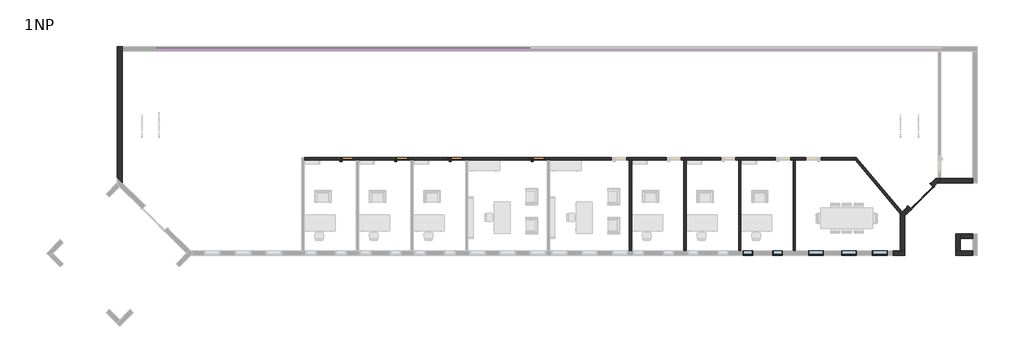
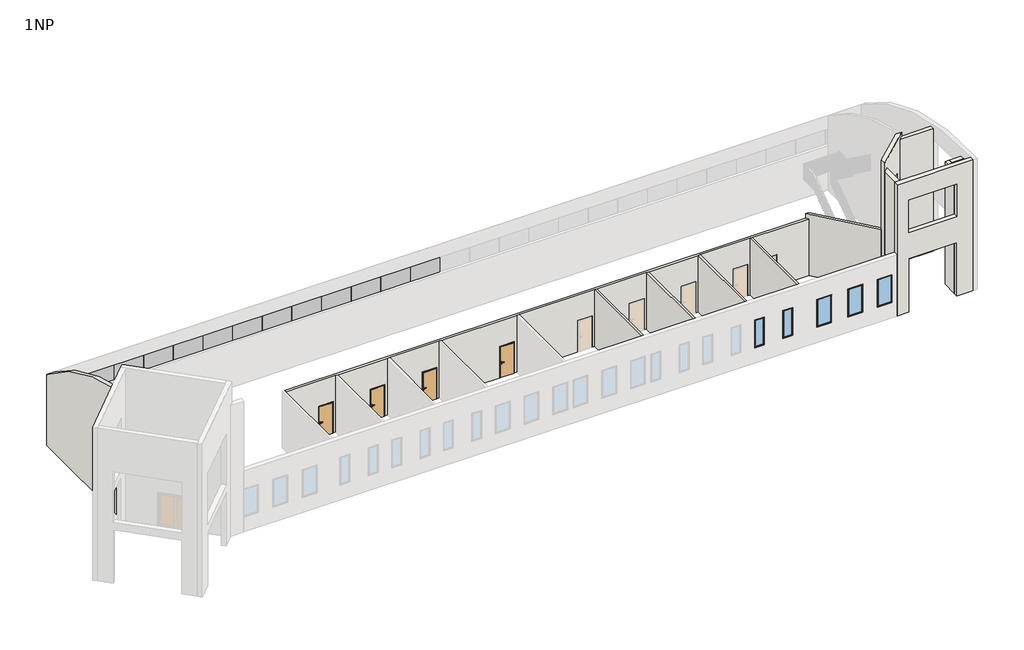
# One storey, part 2 of 3: 13 walls, 12 plates, 5 doors, 5 windows.
"""IFC4 building model written with IfcOpenShell, lengths in millimetres."""

from ifc_helpers import new_model, si_unit, frame, origin, origin_with_axes, place, context, project, spatial, polyline, circle_curve, ellipse_curve, outline, extrude, faceted_brep, transform, mapped, element, save
from ifc_brep_helpers import plane_surface, cylinder_surface, advanced_brep
from components import door_1800_x_1970mm_3c2632e2, door_900_x_2000_c64c60ef, system_panel_glazed_e7f7cd54, window_0610_x_1830mm_aeee110f, window_0915_x_1830mm_7ee91fd3

model = new_model("IFC4")

# Units and contexts
model_context = context("Model", 3, world=origin())
ifc_project = project(units=[si_unit("LENGTHUNIT", "METRE", prefix="MILLI")], contexts=[model_context])

# Site, building, storey
site = spatial("IfcSite", under=ifc_project)
building = spatial("IfcBuilding", under=site)
storey = spatial("IfcBuildingStorey", under=building, Name="1NP", Elevation=0.0)

# Doors
placement = place(None, origin())
door_1800_x_1970mm_shape = door_1800_x_1970mm_3c2632e2(model_context)
element("IfcDoor", 1, ObjectType="Dvoukridle prosklene : 1800 x 1970mm", at=placement, inside=storey, context=model_context, shape_type="MappedRepresentation", body=[
    mapped(door_1800_x_1970mm_shape, transform((35397.5898577, -1433.3591998, 0.0), x_axis=(0.7071067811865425, 0.7071067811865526, 0.0), y_axis=(-0.7071067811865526, 0.7071067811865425, 0.0), z_axis=(0.0, 0.0, 1.0))),
])
door_900_x_2000_shape = door_900_x_2000_c64c60ef(model_context)
element("IfcDoor", 2, ObjectType="Jednokridle oboustrana zaruben : 900 x 2000", at=placement, inside=storey, context=model_context, shape_type="MappedRepresentation", body=[
    mapped(door_900_x_2000_shape, transform((1699.9255273, 791.5551306, 0.0), x_axis=(-1.0, 0.0, 0.0), y_axis=(0.0, -1.0, 0.0), z_axis=(0.0, 0.0, 1.0))),
])
element("IfcDoor", 3, ObjectType="Jednokridle oboustrana zaruben : 900 x 2000", at=placement, inside=storey, context=model_context, shape_type="MappedRepresentation", body=[
    mapped(door_900_x_2000_shape, transform((4899.9255273, 791.5551306, 0.0), x_axis=(-1.0, 0.0, 0.0), y_axis=(0.0, -1.0, 0.0), z_axis=(0.0, 0.0, 1.0))),
])
element("IfcDoor", 4, ObjectType="Jednokridle oboustrana zaruben : 900 x 2000", at=placement, inside=storey, context=model_context, shape_type="MappedRepresentation", body=[
    mapped(door_900_x_2000_shape, transform((8099.9255273, 791.5551306, 0.0), x_axis=(-1.0, 0.0, 0.0), y_axis=(0.0, -1.0, 0.0), z_axis=(0.0, 0.0, 1.0))),
])
element("IfcDoor", 5, ObjectType="Jednokridle oboustrana zaruben : 900 x 2000", at=placement, inside=storey, context=model_context, shape_type="MappedRepresentation", body=[
    mapped(door_900_x_2000_shape, transform((12899.9255273, 791.5551306, 0.0), x_axis=(-1.0, 0.0, 0.0), y_axis=(0.0, -1.0, 0.0), z_axis=(0.0, 0.0, 1.0))),
])

# Plates
system_panel_glazed_shape = system_panel_glazed_e7f7cd54(model_context)
element("IfcPlate", 6, ObjectType="System Panel : Glazed", at=placement, inside=storey, context=model_context, shape_type="MappedRepresentation", body=[
    mapped(system_panel_glazed_shape, transform((-8495.8244727, 7241.5551306, 2916.2475184), x_axis=(1.0, 0.0, 0.0), y_axis=(0.0, 1.0, 0.0), z_axis=(0.0, 0.0, 1.0))),
])
element("IfcPlate", 7, ObjectType="System Panel : Glazed", at=placement, inside=storey, context=model_context, shape_type="MappedRepresentation", body=[
    mapped(system_panel_glazed_shape, transform((-6665.8244727, 7241.5551306, 2916.2475184), x_axis=(1.0, 0.0, 0.0), y_axis=(0.0, 1.0, 0.0), z_axis=(0.0, 0.0, 1.0))),
])
element("IfcPlate", 8, ObjectType="System Panel : Glazed", at=placement, inside=storey, context=model_context, shape_type="MappedRepresentation", body=[
    mapped(system_panel_glazed_shape, transform((-4835.8244727, 7241.5551306, 2916.2475184), x_axis=(1.0, 0.0, 0.0), y_axis=(0.0, 1.0, 0.0), z_axis=(0.0, 0.0, 1.0))),
])
element("IfcPlate", 9, ObjectType="System Panel : Glazed", at=placement, inside=storey, context=model_context, shape_type="MappedRepresentation", body=[
    mapped(system_panel_glazed_shape, transform((-3005.8244727, 7241.5551306, 2916.2475184), x_axis=(1.0, 0.0, 0.0), y_axis=(0.0, 1.0, 0.0), z_axis=(0.0, 0.0, 1.0))),
])
element("IfcPlate", 10, ObjectType="System Panel : Glazed", at=placement, inside=storey, context=model_context, shape_type="MappedRepresentation", body=[
    mapped(system_panel_glazed_shape, transform((-1175.8244727, 7241.5551306, 2916.2475184), x_axis=(1.0, 0.0, 0.0), y_axis=(0.0, 1.0, 0.0), z_axis=(0.0, 0.0, 1.0))),
])
element("IfcPlate", 11, ObjectType="System Panel : Glazed", at=placement, inside=storey, context=model_context, shape_type="MappedRepresentation", body=[
    mapped(system_panel_glazed_shape, transform((654.1755273, 7241.5551306, 2916.2475184), x_axis=(1.0, 0.0, 0.0), y_axis=(0.0, 1.0, 0.0), z_axis=(0.0, 0.0, 1.0))),
])
element("IfcPlate", 12, ObjectType="System Panel : Glazed", at=placement, inside=storey, context=model_context, shape_type="MappedRepresentation", body=[
    mapped(system_panel_glazed_shape, transform((2484.1755273, 7241.5551306, 2916.2475184), x_axis=(1.0, 0.0, 0.0), y_axis=(0.0, 1.0, 0.0), z_axis=(0.0, 0.0, 1.0))),
])
element("IfcPlate", 13, ObjectType="System Panel : Glazed", at=placement, inside=storey, context=model_context, shape_type="MappedRepresentation", body=[
    mapped(system_panel_glazed_shape, transform((4314.1755273, 7241.5551306, 2916.2475184), x_axis=(1.0, 0.0, 0.0), y_axis=(0.0, 1.0, 0.0), z_axis=(0.0, 0.0, 1.0))),
])
element("IfcPlate", 14, ObjectType="System Panel : Glazed", at=placement, inside=storey, context=model_context, shape_type="MappedRepresentation", body=[
    mapped(system_panel_glazed_shape, transform((6144.1755273, 7241.5551306, 2916.2475184), x_axis=(1.0, 0.0, 0.0), y_axis=(0.0, 1.0, 0.0), z_axis=(0.0, 0.0, 1.0))),
])
element("IfcPlate", 15, ObjectType="System Panel : Glazed", at=placement, inside=storey, context=model_context, shape_type="MappedRepresentation", body=[
    mapped(system_panel_glazed_shape, transform((7974.1755273, 7241.5551306, 2916.2475184), x_axis=(1.0, 0.0, 0.0), y_axis=(0.0, 1.0, 0.0), z_axis=(0.0, 0.0, 1.0))),
])
element("IfcPlate", 16, ObjectType="System Panel : Glazed", at=placement, inside=storey, context=model_context, shape_type="MappedRepresentation", body=[
    mapped(system_panel_glazed_shape, transform((9804.1755273, 7241.5551306, 2916.2475184), x_axis=(1.0, 0.0, 0.0), y_axis=(0.0, 1.0, 0.0), z_axis=(0.0, 0.0, 1.0))),
])
element("IfcPlate", 17, ObjectType="System Panel : Glazed", at=placement, inside=storey, context=model_context, shape_type="MappedRepresentation", body=[
    mapped(system_panel_glazed_shape, transform((11634.1755273, 7241.5551306, 2916.2475184), x_axis=(1.0, 0.0, 0.0), y_axis=(0.0, 1.0, 0.0), z_axis=(0.0, 0.0, 1.0))),
])

# Walls
element("IfcWall", 18, ObjectType="Exterior - EIFS on Mtl. Stud", at=placement, inside=storey, context=model_context, shape_type="AdvancedBrep", body=[
    advanced_brep(
    [(38455.6755273, -4624.9448694, 0.0), (37722.6755273, -4624.9448694, 0.0), (37455.6755273, -4624.9448694, 0.0), (37455.6755273, -4624.9448694, 3500.0), (34472.6755273, -4624.9448694, 3500.0), (34472.6755273, -4624.9448694, 0.0), (34205.6755273, -4624.9448694, 0.0), (33755.6755273, -4624.9448694, 0.0), (33755.6755273, -4624.9448694, 4000.0), (33755.6755273, -4624.9448694, 8556.4380679), (38455.6755273, -4624.9448694, 8556.4380679), (37455.6755273, -4624.9448694, 7300.0), (34472.6755273, -4624.9448694, 7300.0), (34472.6755273, -4624.9448694, 5200.0), (37455.6755273, -4624.9448694, 5200.0), (38455.6755273, -4891.9448694, 0.0), (38455.6755273, -4891.9448694, 8541.7849302), (33755.6755273, -4891.9448694, 8541.7849302), (33755.6755273, -4891.9448694, 4000.0), (33755.6755273, -4891.9448694, 0.0), (34472.6755273, -4891.9448694, 0.0), (34472.6755273, -4891.9448694, 3500.0), (37455.6755273, -4891.9448694, 3500.0), (37455.6755273, -4891.9448694, 0.0), (37455.6755273, -4891.9448694, 7300.0), (37455.6755273, -4891.9448694, 5200.0), (34472.6755273, -4891.9448694, 5200.0), (34472.6755273, -4891.9448694, 7300.0)],
    [
        (0, 1),
        (1, 2),
        (2, 3),
        (3, 4),
        (4, 5),
        (5, 6),
        (6, 7),
        (7, 8),
        (8, 9),
        (9, 10),
        (10, 0),
        (11, 12),
        (12, 13),
        (13, 14),
        (14, 11),
        (15, 16),
        (16, 17),
        (17, 18),
        (18, 19),
        (19, 20),
        (20, 21),
        (21, 22),
        (22, 23),
        (23, 15),
        (24, 25),
        (25, 26),
        (26, 27),
        (27, 24),
        (0, 15),
        (23, 2),
        (3, 22),
        (21, 4),
        (20, 5),
        (19, 7),
        (17, 9, circle_curve(frame((33755.6755273, -3782.5530793, -9232.9575956), z_axis=(-1.0, 0.0, 0.0), x_axis=(0.0, -1.0, 0.0)), 17809.3296337)),
        (11, 24),
        (27, 12),
        (13, 26),
        (25, 14),
        (10, 16, circle_curve(frame((38455.6755273, -3782.5530793, -9232.9575956), z_axis=(1.0, 0.0, 0.0), x_axis=(0.0, -1.0, 0.0)), 17809.3296337)),
    ],
    [
        plane_surface(frame((12455.6755273, -4624.9448694, 0.0), z_axis=(0.0, 1.0, 0.0), x_axis=(-1.0, 0.0, 0.0))),
        plane_surface(frame((12455.6755273, -4891.9448694, 0.0), z_axis=(0.0, -1.0, 0.0), x_axis=(1.0, 0.0, 0.0))),
        plane_surface(frame((38589.1755273, -4624.9448694, 0.0), z_axis=(0.0, 0.0, -1.0), x_axis=(0.0, -1.0, 0.0))),
        plane_surface(frame((37589.1755273, -4624.9448694, 3500.0), z_axis=(0.0, 0.0, -1.0), x_axis=(0.0, -1.0, 0.0))),
        plane_surface(frame((34472.6755273, -4624.9448694, 3500.0), z_axis=(1.0, 0.0, 0.0), x_axis=(0.0, -1.0, 0.0))),
        plane_surface(frame((34472.6755273, -4624.9448694, 0.0), z_axis=(0.0, 0.0, -1.0), x_axis=(0.0, -1.0, 0.0))),
        plane_surface(frame((33755.6755273, -4624.9448694, 0.0), z_axis=(-1.0, 0.0, 0.0), x_axis=(0.0, -1.0, 0.0))),
        plane_surface(frame((37589.1755273, -4624.9448694, 7300.0), z_axis=(0.0, 0.0, -1.0), x_axis=(0.0, -1.0, 0.0))),
        plane_surface(frame((34339.1755273, -4624.9448694, 5200.0), z_axis=(0.0, 0.0, 1.0), x_axis=(0.0, -1.0, 0.0))),
        plane_surface(frame((38455.6755273, 5741.5551306, 0.0), z_axis=(1.0, 0.0, 0.0), x_axis=(0.0, -1.0, 0.0))),
        plane_surface(frame((34472.6755273, -4758.4448694, 0.0), z_axis=(1.0, 0.0, 0.0), x_axis=(0.0, 1.0, 0.0))),
        plane_surface(frame((37455.6755273, -4758.4448694, 0.0), z_axis=(-1.0, 0.0, 0.0), x_axis=(0.0, -1.0, 0.0))),
        cylinder_surface(frame((39922.6755273, -3782.5530793, -9232.9575956), z_axis=(1.0, 0.0, 0.0), x_axis=(0.0, -1.0, 0.0)), 17809.3296337),
    ],
    [
        (0, [[1, 2, 3, 4, 5, 6, 7, 8, 9, 10, 11], [12, 13, 14, 15]]),
        (1, [[16, 17, 18, 19, 20, 21, 22, 23, 24], [25, 26, 27, 28]]),
        (2, [[-2, -1, 29, -24, 30]]),
        (3, [[-4, 31, -22, 32]]),
        (4, [[-5, -32, -21, 33]]),
        (5, [[-7, -6, -33, -20, 34]]),
        (6, [[-9, -8, -34, -19, -18, 35]]),
        (7, [[-12, 36, -28, 37]]),
        (8, [[-14, 38, -26, 39]]),
        (9, [[-11, 40, -16, -29]]),
        (10, [[-13, -37, -27, -38]]),
        (11, [[-3, -30, -23, -31]]),
        (11, [[-15, -39, -25, -36]]),
        (12, [[-10, -35, -17, -40]]),
    ],
),
])
element("IfcWall", 19, ObjectType="Exterior - EIFS on Mtl. Stud", at=placement, inside=storey, context=model_context, shape_type="AdvancedBrep", body=[
    advanced_brep(
    [(-11410.8244727, -601.928028, 0.0), (-11410.8244727, 7108.0551306, 0.0), (-11410.8244727, 7375.0551306, 0.0), (-11410.8244727, 7375.0551306, 4647.9646014), (-11410.8244727, 7108.0445023, 4858.4264309), (-11410.8244727, -601.928028, 8290.0514578), (-11677.8244727, -334.928028, 0.0), (-11677.8244727, -334.928028, 8239.4808006), (-11677.8244727, 7375.0551306, 4647.9646014), (-11677.8244727, 7375.0551306, 0.0)],
    [
        (0, 1),
        (1, 2),
        (2, 3),
        (3, 4, circle_curve(frame((-11410.8244727, -3782.5530793, -9232.9575956), z_axis=(1.0, 0.0, 0.0), x_axis=(0.0, -1.0, 0.0)), 17809.3296337)),
        (4, 5, circle_curve(frame((-11410.8244727, -3782.5530793, -9232.9575956), z_axis=(1.0, 0.0, 0.0), x_axis=(0.0, -1.0, 0.0)), 17809.3295625)),
        (5, 0),
        (6, 7),
        (7, 8, circle_curve(frame((-11677.8244727, -3782.5530793, -9232.9575956), z_axis=(-1.0, 0.0, 0.0), x_axis=(0.0, -1.0, 0.0)), 17809.3296337)),
        (8, 9),
        (9, 6),
        (0, 6),
        (9, 2),
        (8, 3),
        (5, 7, ellipse_curve(frame((-8230.1994214, -3782.5530793, -9232.9575956), z_axis=(-0.7071067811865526, -0.7071067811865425, 0.0), x_axis=(0.7071067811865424, -0.7071067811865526, 0.0)), 25186.1955048, 17809.3296337)),
    ],
    [
        plane_surface(frame((-11410.8244727, -6258.4448694, 0.0), z_axis=(1.0, 0.0, 0.0), x_axis=(0.0, 1.0, 0.0))),
        plane_surface(frame((-11677.8244727, -6258.4448694, 0.0), z_axis=(-1.0, 0.0, 0.0), x_axis=(0.0, -1.0, 0.0))),
        plane_surface(frame((-11410.8244727, -657.2255385, 0.0), z_axis=(0.0, 0.0, -1.0), x_axis=(-1.0, 0.0, 0.0))),
        plane_surface(frame((-5544.3244727, 7375.0551306, 0.0), z_axis=(0.0, 1.0, 0.0), x_axis=(-1.0, 0.0, 0.0))),
        plane_surface(frame((-12510.5858892, 497.8333885, 0.0), z_axis=(-0.7071067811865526, -0.7071067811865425, 0.0), x_axis=(-0.7071067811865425, 0.7071067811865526, 0.0))),
        cylinder_surface(frame((39922.6755273, -3782.5530793, -9232.9575956), z_axis=(1.0, 0.0, 0.0), x_axis=(0.0, -1.0, 0.0)), 17809.3296337),
    ],
    [
        (0, [[1, 2, 3, 4, 5, 6]]),
        (1, [[7, 8, 9, 10]]),
        (2, [[-2, -1, 11, -10, 12]]),
        (3, [[-3, -12, -9, 13]]),
        (4, [[-6, 14, -7, -11]]),
        (5, [[-5, -4, -13, -8, -14]]),
    ],
),
])
element("IfcWall", 20, ObjectType="Exterior - EIFS on Mtl. Stud", at=placement, inside=storey, context=model_context, shape_type="Brep", body=[
    faceted_brep([(37722.6755273, -4624.9448694, 8000.0), (37722.6755273, -4624.9448694, 0.0), (37722.6755273, -3891.9448694, 0.0), (37722.6755273, -3624.9448694, 0.0), (37722.6755273, -3624.9448694, 8000.0), (37722.6755273, -3891.9448694, 8000.0), (37455.6755273, -4624.9448694, 0.0), (37455.6755273, -4624.9448694, 3500.0), (37455.6755273, -4624.9448694, 5200.0), (37455.6755273, -4624.9448694, 7300.0), (37455.6755273, -4624.9448694, 8000.0), (37455.6755273, -3624.9448694, 8000.0), (37455.6755273, -3624.9448694, 0.0)], [[[0, 1, 2, 3, 4, 5]], [[6, 7, 8, 9, 10, 11, 12]], [[3, 2, 1, 6, 12]], [[0, 5, 4, 11, 10]], [[4, 3, 12, 11]], [[0, 10, 9, 8, 7, 6, 1]]]),
])
element("IfcWall", 21, ObjectType="Exterior - EIFS on Mtl. Stud", at=placement, inside=storey, context=model_context, shape_type="Brep", body=[
    faceted_brep([(37722.6755273, -3891.9448694, 0.0), (38455.6755273, -3891.9448694, 0.0), (38455.6755273, -3891.9448694, 8000.0), (37722.6755273, -3891.9448694, 8000.0), (37722.6755273, -3624.9448694, 0.0), (37722.6755273, -3624.9448694, 8000.0), (38455.6755273, -3624.9448694, 8000.0), (38455.6755273, -3624.9448694, 7300.0), (38455.6755273, -3624.9448694, 5200.0), (38455.6755273, -3624.9448694, 3500.0), (38455.6755273, -3624.9448694, 0.0)], [[[0, 1, 2, 3]], [[4, 5, 6, 7, 8, 9, 10]], [[1, 0, 4, 10]], [[3, 2, 6, 5]], [[0, 3, 5, 4]], [[1, 10, 9, 8, 7, 6, 2]]]),
])
element("IfcWall", 22, ObjectType="Exterior - EIFS on Mtl. Stud", at=placement, inside=storey, context=model_context, shape_type="AdvancedBrep", body=[
    advanced_brep(
    [(36270.5742736, -374.9448694, 0.0), (35951.8776052, -693.6415378, 0.0), (35951.8776052, -693.6415378, 2134.0), (34657.8721956, -1987.6469473, 2134.0), (34657.8721956, -1987.6469473, 0.0), (34302.1897841, -2343.3293589, 0.0), (34205.6755273, -2439.8436157, 0.0), (34205.6755273, -2439.8436157, 4000.0), (34205.6755273, -2439.8436157, 8525.6840557), (36270.5742736, -374.9448694, 8247.3292525), (35823.8290879, -821.6900551, 4000.0), (35823.8290879, -821.6900551, 6134.0), (34529.8236783, -2115.6954646, 6134.0), (34529.8236783, -2115.6954646, 4000.0), (36140.6751158, -882.4390484, 2134.0), (36140.6751158, -882.4390484, 0.0), (36381.1692947, -641.9448694, 0.0), (36648.1692947, -374.9448694, 0.0), (36648.1692947, -374.9448694, 8000.0), (36648.1692947, -374.9448694, 8247.3292525), (34205.6755273, -2817.4386368, 8550.2023068), (34205.6755273, -2817.4386368, 8000.0), (34205.6755273, -2817.4386368, 0.0), (34472.6755273, -2550.4386368, 0.0), (34846.6697062, -2176.4444579, 0.0), (34846.6697062, -2176.4444579, 2134.0), (36012.6265985, -1010.4875656, 4000.0), (34718.6211889, -2304.4929752, 4000.0), (34718.6211889, -2304.4929752, 6134.0), (36012.6265985, -1010.4875656, 6134.0), (36419.9255273, -374.9448694, 0.0), (36558.4255273, -374.9448694, 0.0), (34205.6755273, -2443.7758967, 0.0), (36419.9255273, -374.9448694, 8247.3292525), (36558.4255273, -374.9448694, 8247.3292525)],
    [
        (0, 1),
        (1, 2),
        (2, 3),
        (3, 4),
        (4, 5),
        (5, 6),
        (6, 7),
        (7, 8),
        (8, 9, ellipse_curve(frame((32862.9660637, -3782.5530793, -9232.9575956), z_axis=(-0.7071067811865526, 0.7071067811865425, 0.0), x_axis=(0.7071067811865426, 0.7071067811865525, 0.0)), 25186.1955048, 17809.3296337)),
        (9, 0),
        (10, 11),
        (11, 12),
        (12, 13),
        (13, 10),
        (14, 15),
        (15, 16),
        (16, 17),
        (17, 18),
        (18, 19),
        (19, 20, ellipse_curve(frame((33240.5610849, -3782.5530793, -9232.9575956), z_axis=(0.7071067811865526, -0.7071067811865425, 0.0), x_axis=(0.7071067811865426, 0.7071067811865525, 0.0)), 25186.1955048, 17809.3296337)),
        (20, 21),
        (21, 22),
        (22, 23),
        (23, 24),
        (24, 25),
        (25, 14),
        (26, 27),
        (27, 28),
        (28, 29),
        (29, 26),
        (15, 1),
        (0, 30),
        (30, 31),
        (31, 17),
        (22, 32),
        (32, 6),
        (4, 24),
        (9, 33),
        (33, 34),
        (34, 19),
        (20, 8, circle_curve(frame((34205.6755273, -3782.5530793, -9232.9575956), z_axis=(-1.0, 0.0, 0.0), x_axis=(0.0, -1.0, 0.0)), 17809.3296337)),
        (14, 2),
        (25, 3),
        (26, 10),
        (13, 27),
        (12, 28),
        (11, 29),
    ],
    [
        plane_surface(frame((38416.1447376, 1770.6255947, 0.0), z_axis=(-0.7071067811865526, 0.7071067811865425, 0.0), x_axis=(-0.7071067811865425, -0.7071067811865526, 0.0))),
        plane_surface(frame((38604.9422482, 1581.8280841, 0.0), z_axis=(0.7071067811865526, -0.7071067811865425, 0.0), x_axis=(0.7071067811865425, 0.7071067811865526, 0.0))),
        plane_surface(frame((36231.4730288, -414.0461141, 0.0), z_axis=(0.0, 0.0, -1.0), x_axis=(0.7071067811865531, -0.707106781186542, 0.0))),
        plane_surface(frame((38455.6755273, -374.9448694, 0.0), z_axis=(0.0, 1.0, 0.0), x_axis=(-1.0, 0.0, 0.0))),
        plane_surface(frame((34205.6755273, -4758.4448694, 0.0), z_axis=(-1.0, 0.0, 0.0), x_axis=(0.0, -1.0, 0.0))),
        cylinder_surface(frame((39922.6755273, -3782.5530793, -9232.9575956), z_axis=(1.0, 0.0, 0.0), x_axis=(0.0, -1.0, 0.0)), 17809.3296337),
        plane_surface(frame((35951.8776052, -693.6415378, 0.0), z_axis=(-0.7071067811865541, -0.7071067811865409, 0.0), x_axis=(0.7071067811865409, -0.7071067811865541, 0.0))),
        plane_surface(frame((35951.8776052, -693.6415378, 2134.0), z_axis=(0.0, 0.0, -1.0), x_axis=(0.7071067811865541, -0.7071067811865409, 0.0))),
        plane_surface(frame((34657.8721956, -1987.6469473, 2134.0), z_axis=(0.707106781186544, 0.7071067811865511, 0.0), x_axis=(0.7071067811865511, -0.707106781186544, 0.0))),
        plane_surface(frame((36012.6265985, -1010.4875656, 4000.0), z_axis=(0.0, 0.0, 1.0), x_axis=(-0.7071067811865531, 0.707106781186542, 0.0))),
        plane_surface(frame((34718.6211889, -2304.4929752, 4000.0), z_axis=(0.707106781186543, 0.7071067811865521, 0.0), x_axis=(-0.7071067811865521, 0.707106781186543, 0.0))),
        plane_surface(frame((34718.6211889, -2304.4929752, 6134.0), z_axis=(0.0, 0.0, -1.0000000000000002), x_axis=(-0.707106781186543, 0.7071067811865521, 0.0))),
        plane_surface(frame((36012.6265985, -1010.4875656, 6134.0), z_axis=(-0.707106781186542, -0.7071067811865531, 0.0), x_axis=(-0.7071067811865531, 0.707106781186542, 0.0))),
    ],
    [
        (0, [[1, 2, 3, 4, 5, 6, 7, 8, 9, 10], [11, 12, 13, 14]]),
        (1, [[15, 16, 17, 18, 19, 20, 21, 22, 23, 24, 25, 26], [27, 28, 29, 30]]),
        (2, [[-17, -16, 31, -1, 32, 33, 34]]),
        (2, [[-24, -23, 35, 36, -6, -5, 37]]),
        (3, [[-10, 38, 39, 40, -19, -18, -34, -33, -32]]),
        (4, [[-36, -35, -22, -21, 41, -8, -7]]),
        (5, [[-9, -41, -20, -40, -39, -38]]),
        (6, [[-2, -31, -15, 42]]),
        (7, [[-3, -42, -26, 43]]),
        (8, [[-4, -43, -25, -37]]),
        (9, [[-27, 44, -14, 45]]),
        (10, [[-28, -45, -13, 46]]),
        (11, [[-29, -46, -12, 47]]),
        (12, [[-30, -47, -11, -44]]),
    ],
),
])
element("IfcWall", 23, ObjectType="Exterior - EIFS on Mtl. Stud", at=placement, inside=storey, context=model_context, shape_type="Brep", body=[
    faceted_brep([(38455.6755273, -374.9448694, 8000.0), (38455.6755273, -374.9448694, 0.0), (36648.1692947, -374.9448694, 0.0), (36648.1692947, -374.9448694, 8000.0), (38455.6755273, -641.9448694, 0.0), (38455.6755273, -641.9448694, 3500.0), (38455.6755273, -641.9448694, 5200.0), (38455.6755273, -641.9448694, 7300.0), (38455.6755273, -641.9448694, 8000.0), (36381.1692947, -641.9448694, 8000.0), (36381.1692947, -641.9448694, 0.0)], [[[0, 1, 2, 3]], [[4, 5, 6, 7, 8, 9, 10]], [[2, 1, 4, 10]], [[0, 3, 9, 8]], [[3, 2, 10, 9]], [[0, 8, 7, 6, 5, 4, 1]]]),
])
element("IfcWall", 24, ObjectType="Exterior - EIFS on Mtl. Stud", at=placement, inside=storey, context=model_context, shape_type="Brep", body=[
    faceted_brep([(34472.6755273, -4624.9448694, 8000.0), (34472.6755273, -4624.9448694, 7300.0), (34472.6755273, -4624.9448694, 5200.0), (34472.6755273, -4624.9448694, 3500.0), (34472.6755273, -4624.9448694, 0.0), (34472.6755273, -2550.4386368, 0.0), (34472.6755273, -2550.4386368, 8000.0), (34205.6755273, -4624.9448694, 0.0), (34205.6755273, -4624.9448694, 8000.0), (34205.6755273, -2817.4386368, 8000.0), (34205.6755273, -2817.4386368, 0.0)], [[[0, 1, 2, 3, 4, 5, 6]], [[7, 8, 9, 10]], [[5, 4, 7, 10]], [[0, 6, 9, 8]], [[5, 10, 9, 6]], [[0, 8, 7, 4, 3, 2, 1]]]),
])
element("IfcWall", 25, ObjectType="Interior - 138mm Partition (1-hr)", at=placement, inside=storey, context=model_context, shape_type="SweptSolid", body=[
    extrude(outline(polyline([(28058.4255273, 722.3051306), (28058.4255273, -4624.9448694), (27919.9255273, -4624.9448694), (27919.9255273, 722.3051306), (28058.4255273, 722.3051306)])), origin_with_axes(), (0.0, 0.0, 1.0), 3700.0),
])
element("IfcWall", 26, ObjectType="Interior - 138mm Partition (1-hr)", at=placement, inside=storey, context=model_context, shape_type="Brep", body=[
    faceted_brep([(34302.1897841, -2343.3293589, 0.0), (31613.6017157, 860.8051306, 0.0), (31613.6017157, 860.8051306, 4000.0), (34302.1897841, -2343.3293589, 4000.0), (34205.6755273, -2443.7758967, 0.0), (34205.6755273, -2443.7758967, 4000.0), (31432.8028061, 860.8051306, 4000.0), (31432.8028061, 860.8051306, 3700.0), (31432.8028061, 860.8051306, 0.0), (31549.018105, 722.3051306, 0.0), (34205.6755273, -2439.8436157, 0.0), (34205.6755273, -2439.8436157, 4000.0)], [[[0, 1, 2, 3]], [[4, 5, 6, 7, 8, 9]], [[1, 0, 10, 4, 9, 8]], [[3, 2, 6, 5, 11]], [[2, 1, 8, 7, 6]], [[0, 3, 11, 10]], [[11, 5, 4, 10]]]),
])
element("IfcWall", 27, ObjectType="Interior - 138mm Partition (1-hr)", at=placement, inside=storey, context=model_context, shape_type="Brep", body=[
    faceted_brep([(17269.9255273, 860.8051306, 2050.0), (17269.9255273, 860.8051306, 0.0), (13369.9255273, 860.8051306, 0.0), (13369.9255273, 860.8051306, 2050.0), (12469.9255273, 860.8051306, 2050.0), (12469.9255273, 860.8051306, 0.0), (8569.9255273, 860.8051306, 0.0), (8569.9255273, 860.8051306, 2050.0), (7669.9255273, 860.8051306, 2050.0), (7669.9255273, 860.8051306, 0.0), (5369.9255273, 860.8051306, 0.0), (5369.9255273, 860.8051306, 2050.0), (4469.9255273, 860.8051306, 2050.0), (4469.9255273, 860.8051306, 0.0), (2169.9255273, 860.8051306, 0.0), (2169.9255273, 860.8051306, 2050.0), (1269.9255273, 860.8051306, 2050.0), (1269.9255273, 860.8051306, 0.0), (-741.5744727, 860.8051306, 0.0), (-741.5744727, 860.8051306, 3700.0), (31432.8028061, 860.8051306, 3700.0), (31432.8028061, 860.8051306, 0.0), (29565.9255273, 860.8051306, 0.0), (29565.9255273, 860.8051306, 2050.0), (28665.9255273, 860.8051306, 2050.0), (28665.9255273, 860.8051306, 0.0), (27769.9255273, 860.8051306, 0.0), (27769.9255273, 860.8051306, 2050.0), (26869.9255273, 860.8051306, 2050.0), (26869.9255273, 860.8051306, 0.0), (24569.9255273, 860.8051306, 0.0), (24569.9255273, 860.8051306, 2050.0), (23669.9255273, 860.8051306, 2050.0), (23669.9255273, 860.8051306, 0.0), (21369.9255273, 860.8051306, 0.0), (21369.9255273, 860.8051306, 2050.0), (20469.9255273, 860.8051306, 2050.0), (20469.9255273, 860.8051306, 0.0), (18169.9255273, 860.8051306, 0.0), (18169.9255273, 860.8051306, 2050.0), (13369.9255273, 722.3051306, 0.0), (13519.9255273, 722.3051306, 0.0), (13658.4255273, 722.3051306, 0.0), (17269.9255273, 722.3051306, 0.0), (17269.9255273, 722.3051306, 2050.0), (18169.9255273, 722.3051306, 2050.0), (18169.9255273, 722.3051306, 0.0), (18319.9255273, 722.3051306, 0.0), (18458.4255273, 722.3051306, 0.0), (20469.9255273, 722.3051306, 0.0), (20469.9255273, 722.3051306, 2050.0), (21369.9255273, 722.3051306, 2050.0), (21369.9255273, 722.3051306, 0.0), (21519.9255273, 722.3051306, 0.0), (21658.4255273, 722.3051306, 0.0), (23669.9255273, 722.3051306, 0.0), (23669.9255273, 722.3051306, 2050.0), (24569.9255273, 722.3051306, 2050.0), (24569.9255273, 722.3051306, 0.0), (24719.9255273, 722.3051306, 0.0), (24858.4255273, 722.3051306, 0.0), (26869.9255273, 722.3051306, 0.0), (26869.9255273, 722.3051306, 2050.0), (27769.9255273, 722.3051306, 2050.0), (27769.9255273, 722.3051306, 0.0), (27919.9255273, 722.3051306, 0.0), (28058.4255273, 722.3051306, 0.0), (28665.9255273, 722.3051306, 0.0), (28665.9255273, 722.3051306, 2050.0), (29565.9255273, 722.3051306, 2050.0), (29565.9255273, 722.3051306, 0.0), (31549.018105, 722.3051306, 0.0), (31549.018105, 722.3051306, 3700.0), (28058.4255273, 722.3051306, 3700.0), (27919.9255273, 722.3051306, 3700.0), (24858.4255273, 722.3051306, 3700.0), (24719.9255273, 722.3051306, 3700.0), (21658.4255273, 722.3051306, 3700.0), (21519.9255273, 722.3051306, 3700.0), (18458.4255273, 722.3051306, 3700.0), (18319.9255273, 722.3051306, 3700.0), (13658.4255273, 722.3051306, 3700.0), (13519.9255273, 722.3051306, 3700.0), (8858.4255273, 722.3051306, 3700.0), (8719.9255273, 722.3051306, 3700.0), (5658.4255273, 722.3051306, 3700.0), (5519.9255273, 722.3051306, 3700.0), (2458.4255273, 722.3051306, 3700.0), (2319.9255273, 722.3051306, 3700.0), (-741.5744727, 722.3051306, 3700.0), (-741.5744727, 722.3051306, 0.0), (1269.9255273, 722.3051306, 0.0), (1269.9255273, 722.3051306, 2050.0), (2169.9255273, 722.3051306, 2050.0), (2169.9255273, 722.3051306, 0.0), (2319.9255273, 722.3051306, 0.0), (2458.4255273, 722.3051306, 0.0), (4469.9255273, 722.3051306, 0.0), (4469.9255273, 722.3051306, 2050.0), (5369.9255273, 722.3051306, 2050.0), (5369.9255273, 722.3051306, 0.0), (5519.9255273, 722.3051306, 0.0), (5658.4255273, 722.3051306, 0.0), (7669.9255273, 722.3051306, 0.0), (7669.9255273, 722.3051306, 2050.0), (8569.9255273, 722.3051306, 2050.0), (8569.9255273, 722.3051306, 0.0), (8719.9255273, 722.3051306, 0.0), (8858.4255273, 722.3051306, 0.0), (12469.9255273, 722.3051306, 0.0), (12469.9255273, 722.3051306, 2050.0), (13369.9255273, 722.3051306, 2050.0)], [[[0, 1, 2, 3, 4, 5, 6, 7, 8, 9, 10, 11, 12, 13, 14, 15, 16, 17, 18, 19, 20, 21, 22, 23, 24, 25, 26, 27, 28, 29, 30, 31, 32, 33, 34, 35, 36, 37, 38, 39]], [[40, 41, 42, 43, 44, 45, 46, 47, 48, 49, 50, 51, 52, 53, 54, 55, 56, 57, 58, 59, 60, 61, 62, 63, 64, 65, 66, 67, 68, 69, 70, 71, 72, 73, 74, 75, 76, 77, 78, 79, 80, 81, 82, 83, 84, 85, 86, 87, 88, 89, 90, 91, 92, 93, 94, 95, 96, 97, 98, 99, 100, 101, 102, 103, 104, 105, 106, 107, 108, 109, 110, 111]], [[71, 70, 22, 21]], [[18, 17, 91, 90]], [[10, 9, 103, 102, 101, 100]], [[14, 13, 97, 96, 95, 94]], [[6, 5, 109, 108, 107, 106]], [[2, 1, 43, 42, 41, 40]], [[34, 33, 55, 54, 53, 52]], [[30, 29, 61, 60, 59, 58]], [[26, 25, 67, 66, 65, 64]], [[38, 37, 49, 48, 47, 46]], [[20, 19, 89, 88, 87, 86, 85, 84, 83, 82, 81, 80, 79, 78, 77, 76, 75, 74, 73, 72]], [[21, 20, 72, 71]], [[19, 18, 90, 89]], [[23, 22, 70, 69]], [[24, 23, 69, 68]], [[25, 24, 68, 67]], [[98, 97, 13, 12]], [[99, 98, 12, 11]], [[100, 99, 11, 10]], [[92, 91, 17, 16]], [[93, 92, 16, 15]], [[94, 93, 15, 14]], [[104, 103, 9, 8]], [[105, 104, 8, 7]], [[106, 105, 7, 6]], [[110, 109, 5, 4]], [[111, 110, 4, 3]], [[40, 111, 3, 2]], [[50, 49, 37, 36]], [[51, 50, 36, 35]], [[52, 51, 35, 34]], [[56, 55, 33, 32]], [[57, 56, 32, 31]], [[58, 57, 31, 30]], [[62, 61, 29, 28]], [[63, 62, 28, 27]], [[64, 63, 27, 26]], [[44, 43, 1, 0]], [[45, 44, 0, 39]], [[46, 45, 39, 38]]]),
])
element("IfcWall", 28, ObjectType="Interior - 138mm Partition (1-hr)", at=placement, inside=storey, context=model_context, shape_type="SweptSolid", body=[
    extrude(outline(polyline([(21658.4255273, 722.3051306), (21658.4255273, -4624.9448694), (21519.9255273, -4624.9448694), (21519.9255273, 722.3051306), (21658.4255273, 722.3051306)])), origin_with_axes(), (0.0, 0.0, 1.0), 3700.0),
])
element("IfcWall", 29, ObjectType="Interior - 138mm Partition (1-hr)", at=placement, inside=storey, context=model_context, shape_type="SweptSolid", body=[
    extrude(outline(polyline([(24858.4255273, 722.3051306), (24858.4255273, -4624.9448694), (24719.9255273, -4624.9448694), (24719.9255273, 722.3051306), (24858.4255273, 722.3051306)])), origin_with_axes(), (0.0, 0.0, 1.0), 3700.0),
])
element("IfcWall", 30, ObjectType="Interior - 138mm Partition (1-hr)", at=placement, inside=storey, context=model_context, shape_type="SweptSolid", body=[
    extrude(outline(polyline([(18458.4255273, 722.3051306), (18458.4255273, -4624.9448694), (18319.9255273, -4624.9448694), (18319.9255273, 722.3051306), (18458.4255273, 722.3051306)])), origin_with_axes(), (0.0, 0.0, 1.0), 3700.0),
])

# Windows
window_0610_x_1830mm_shape = window_0610_x_1830mm_aeee110f(model_context)
element("IfcWindow", 31, ObjectType="Pevne : 0610 x 1830mm", at=placement, inside=storey, context=model_context, shape_type="MappedRepresentation", body=[
    mapped(window_0610_x_1830mm_shape, transform((25263.4255273, -4745.4448694, 665.0), x_axis=(-1.0, 0.0, 0.0), y_axis=(0.0, -1.0, 0.0), z_axis=(0.0, 0.0, 1.0))),
])
element("IfcWindow", 32, ObjectType="Pevne : 0610 x 1830mm", at=placement, inside=storey, context=model_context, shape_type="MappedRepresentation", body=[
    mapped(window_0610_x_1830mm_shape, transform((27014.9255273, -4745.4448694, 665.0), x_axis=(-1.0, 0.0, 0.0), y_axis=(0.0, -1.0, 0.0), z_axis=(0.0, 0.0, 1.0))),
])
window_0915_x_1830mm_shape = window_0915_x_1830mm_7ee91fd3(model_context)
element("IfcWindow", 33, ObjectType="Pevne : 0915 x 1830mm", at=placement, inside=storey, context=model_context, shape_type="MappedRepresentation", body=[
    mapped(window_0915_x_1830mm_shape, transform((32998.1755273, -4745.4448694, 665.0), x_axis=(-1.0, 0.0, 0.0), y_axis=(0.0, -1.0, 0.0), z_axis=(0.0, 0.0, 1.0))),
])
element("IfcWindow", 34, ObjectType="Pevne : 0915 x 1830mm", at=placement, inside=storey, context=model_context, shape_type="MappedRepresentation", body=[
    mapped(window_0915_x_1830mm_shape, transform((31183.1755273, -4745.4448694, 665.0), x_axis=(-1.0, 0.0, 0.0), y_axis=(0.0, -1.0, 0.0), z_axis=(0.0, 0.0, 1.0))),
])
element("IfcWindow", 35, ObjectType="Pevne : 0915 x 1830mm", at=placement, inside=storey, context=model_context, shape_type="MappedRepresentation", body=[
    mapped(window_0915_x_1830mm_shape, transform((29268.1755273, -4745.4448694, 665.0), x_axis=(-1.0, 0.0, 0.0), y_axis=(0.0, -1.0, 0.0), z_axis=(0.0, 0.0, 1.0))),
])

save(model, "model.ifc")
